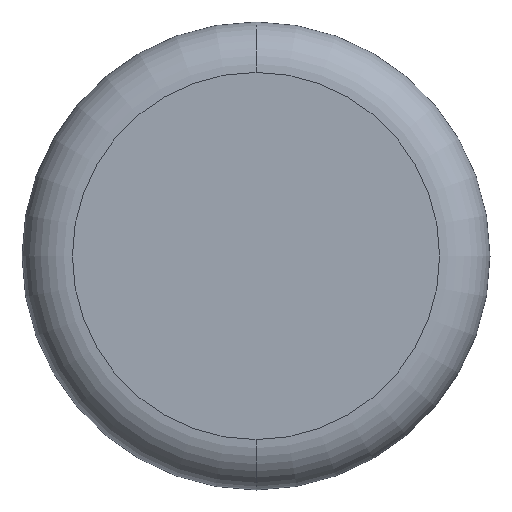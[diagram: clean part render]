
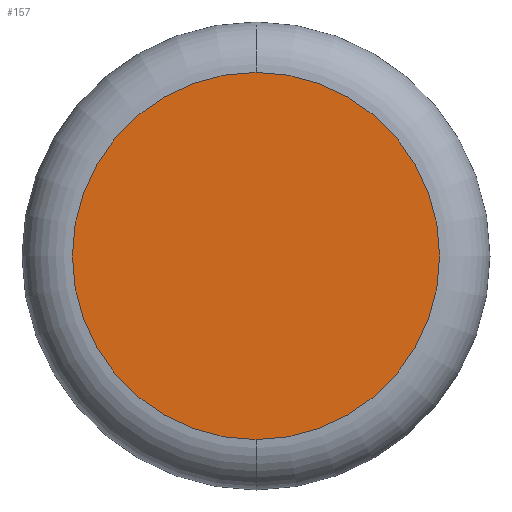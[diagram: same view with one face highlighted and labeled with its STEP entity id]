
A CAD part, front view. The second image highlights one B-rep face of the part: STEP entity #157.
In plain terms, the highlighted planar face has unit normal (0, -1, 0).
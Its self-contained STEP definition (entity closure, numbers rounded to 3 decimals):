
#9 = DIRECTION ( 'NONE',  ( 0., 1., 0. ) ) ;
#31 = DIRECTION ( 'NONE',  ( 0., -1., 0. ) ) ;
#40 = CARTESIAN_POINT ( 'NONE',  ( 0., 0., 0. ) ) ;
#55 = CARTESIAN_POINT ( 'NONE',  ( 0., 0., 255. ) ) ;
#59 = EDGE_CURVE ( 'NONE', #154, #232, #230, .T. ) ;
#61 = DIRECTION ( 'NONE',  ( 0., 0., -1. ) ) ;
#79 = CARTESIAN_POINT ( 'NONE',  ( 0., 0., -255. ) ) ;
#86 = DIRECTION ( 'NONE',  ( 0., 0., 1. ) ) ;
#102 = DIRECTION ( 'NONE',  ( 0., -1., 0. ) ) ;
#107 = CIRCLE ( 'NONE', #127, 255. ) ;
#112 = CARTESIAN_POINT ( 'NONE',  ( 0., 0., 0. ) ) ;
#127 = AXIS2_PLACEMENT_3D ( 'NONE', #112, #31, #217 ) ;
#129 = CARTESIAN_POINT ( 'NONE',  ( 0., 0., 0. ) ) ;
#154 = VERTEX_POINT ( 'NONE', #79 ) ;
#157 = ADVANCED_FACE ( 'NONE', ( #209 ), #234, .F. ) ;
#158 = EDGE_CURVE ( 'NONE', #232, #154, #107, .T. ) ;
#170 = ORIENTED_EDGE ( 'NONE', *, *, #158, .T. ) ;
#176 = AXIS2_PLACEMENT_3D ( 'NONE', #40, #102, #61 ) ;
#194 = AXIS2_PLACEMENT_3D ( 'NONE', #129, #9, #86 ) ;
#205 = ORIENTED_EDGE ( 'NONE', *, *, #59, .T. ) ;
#209 = FACE_OUTER_BOUND ( 'NONE', #229, .T. ) ;
#217 = DIRECTION ( 'NONE',  ( 0., 0., -1. ) ) ;
#229 = EDGE_LOOP ( 'NONE', ( #205, #170 ) ) ;
#230 = CIRCLE ( 'NONE', #176, 255. ) ;
#232 = VERTEX_POINT ( 'NONE', #55 ) ;
#234 = PLANE ( 'NONE',  #194 ) ;
